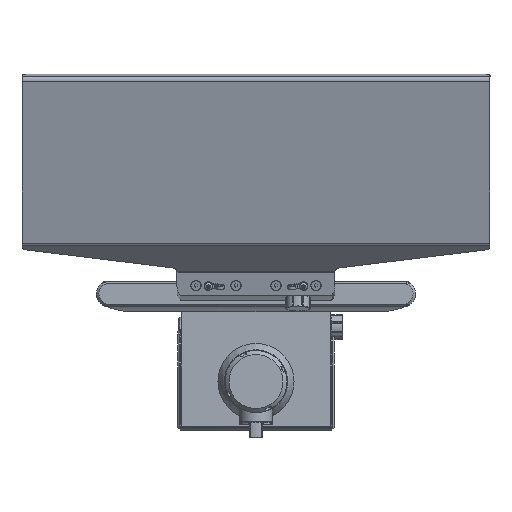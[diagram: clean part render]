
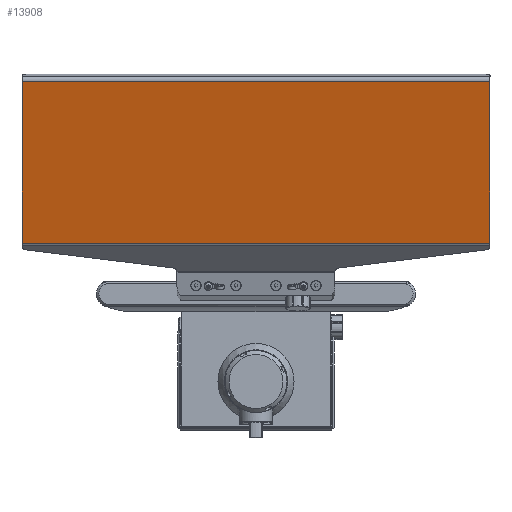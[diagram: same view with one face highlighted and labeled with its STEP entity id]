
A CAD part, front view. The second image highlights one B-rep face of the part: STEP entity #13908.
In plain terms, the highlighted planar face has unit normal (0, -0.966, -0.259).
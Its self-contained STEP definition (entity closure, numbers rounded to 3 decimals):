
#1114=LINE('',#22547,#2291);
#1115=LINE('',#22552,#2292);
#1117=LINE('',#22556,#2294);
#1118=LINE('',#22557,#2295);
#2291=VECTOR('',#17330,468.);
#2292=VECTOR('',#17337,167.167);
#2294=VECTOR('',#17341,167.167);
#2295=VECTOR('',#17342,468.);
#3637=FACE_OUTER_BOUND('',#4478,.T.);
#4478=EDGE_LOOP('',(#10605,#10606,#10607,#10608));
#5973=VERTEX_POINT('',#22400);
#5976=VERTEX_POINT('',#22408);
#6011=VERTEX_POINT('',#22551);
#6012=VERTEX_POINT('',#22555);
#7639=EDGE_CURVE('',#5973,#5976,#1114,.T.);
#7640=EDGE_CURVE('',#5973,#6011,#1115,.T.);
#7642=EDGE_CURVE('',#6012,#5976,#1117,.T.);
#7643=EDGE_CURVE('',#6012,#6011,#1118,.T.);
#10605=ORIENTED_EDGE('',*,*,#7639,.T.);
#10606=ORIENTED_EDGE('',*,*,#7642,.F.);
#10607=ORIENTED_EDGE('',*,*,#7643,.T.);
#10608=ORIENTED_EDGE('',*,*,#7640,.F.);
#12815=PLANE('',#14944);
#13908=ADVANCED_FACE('',(#3637),#12815,.T.);
#14944=AXIS2_PLACEMENT_3D('',#22554,#17339,#17340);
#17330=DIRECTION('',(1.,0.,0.));
#17337=DIRECTION('',(0.,-0.259,0.966));
#17339=DIRECTION('center_axis',(0.,-0.966,
-0.259));
#17340=DIRECTION('ref_axis',(0.,-0.259,0.966));
#17341=DIRECTION('',(0.,0.259,-0.966));
#17342=DIRECTION('',(-1.,0.,0.));
#22400=CARTESIAN_POINT('',(-234.,-169.,53.377));
#22408=CARTESIAN_POINT('',(234.,-169.,53.377));
#22547=CARTESIAN_POINT('',(-117.,-169.,53.377));
#22551=CARTESIAN_POINT('',(-234.,-212.266,214.848));
#22552=CARTESIAN_POINT('',(-234.,-168.681,52.186));
#22554=CARTESIAN_POINT('Origin',(0.,-191.069,
135.739));
#22555=CARTESIAN_POINT('',(234.,-212.266,214.848));
#22556=CARTESIAN_POINT('',(234.,-213.457,219.291));
#22557=CARTESIAN_POINT('',(117.,-212.266,214.848));
